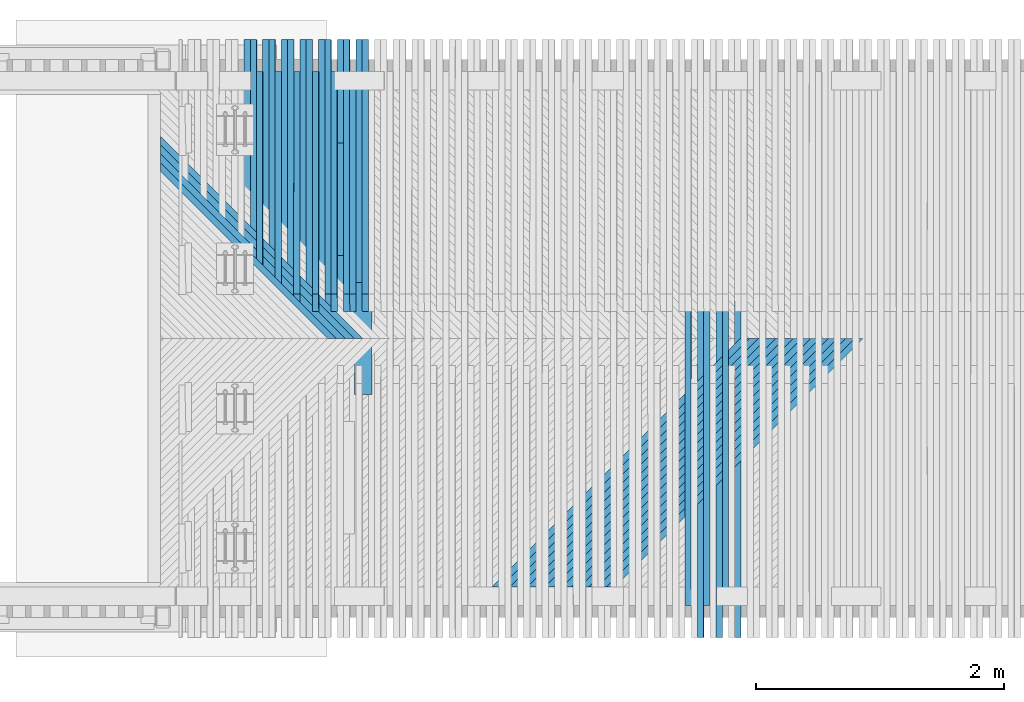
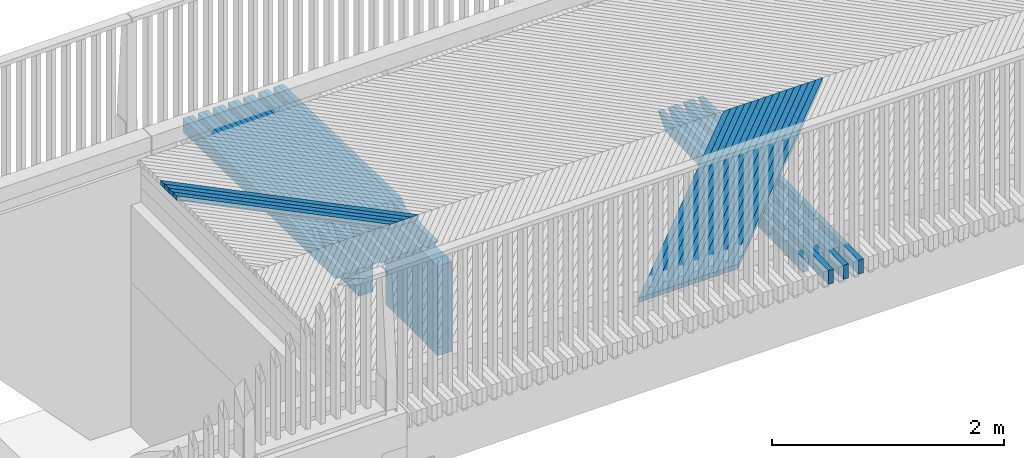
# One storey, part 17 of 47: 46 beams.
"""IFC2X3 building model written with IfcOpenShell, lengths in millimetres."""

from ifc_helpers import new_model, si_unit, frame, origin_with_axes, place, context, subcontext, project, spatial, faceted_brep, material, type_object, element, save


model = new_model("IFC2X3")

# Units and contexts
model_context = context("Model", 3, precision=1e-05, world=origin_with_axes())
body_context = subcontext(model_context, "Body", "Model", "MODEL_VIEW")
ifc_project = project(units=[si_unit("LENGTHUNIT", "METRE", prefix="MILLI"), si_unit("AREAUNIT", "SQUARE_METRE"), si_unit("VOLUMEUNIT", "CUBIC_METRE"), si_unit("MASSUNIT", "GRAM", prefix="KILO"), si_unit("TIMEUNIT", "SECOND"), si_unit("PLANEANGLEUNIT", "RADIAN"), si_unit("SOLIDANGLEUNIT", "STERADIAN"), si_unit("THERMODYNAMICTEMPERATUREUNIT", "DEGREE_CELSIUS"), si_unit("LUMINOUSINTENSITYUNIT", "LUMEN")], contexts=[model_context])

# Site, building, storey
site_placement = place(None, origin_with_axes())
site = spatial("IfcSite", under=ifc_project, at=site_placement, Name="Undefined", CompositionType="ELEMENT")
building_placement = place(site_placement, origin_with_axes())
building = spatial("IfcBuilding", under=site, at=building_placement, Name="Undefined", CompositionType="ELEMENT")
storey_placement = place(building_placement, origin_with_axes())
storey = spatial("IfcBuildingStorey", under=building, at=storey_placement, Name="Undefined", CompositionType="ELEMENT", Elevation=0.0)

# Beams
ifc_material = material(Name="TIMBER/Timber_Undefined")
beam_type_1 = type_object("IfcBeamType", Name="150*50", PredefinedType="NOTDEFINED")
beam_1_placement = place(storey_placement, frame((148.693228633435, 64771.4438078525, 3036.78487958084), z_axis=(-0.0130375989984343, 0.0199960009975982, 0.999715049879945), x_axis=(-0.00026075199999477, -0.99980005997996, 0.0199943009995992)))
element("IfcBeam", 1, at=beam_1_placement, inside=storey, type_object=beam_type_1, material=ifc_material, Name="BEAM", ObjectType="150*50", context=body_context, shape_type="Brep", body=[
    faceted_brep([(6.18456397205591e-09, -24.9999999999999, -75.0000000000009), (-6.1918399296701e-09, -24.9999999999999, 74.9999999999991), (-6.19911588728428e-09, 25.0, 75.0), (6.18456397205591e-09, 24.9999999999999, -75.0), (2186.42645864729, 25.0, -75.0), (2186.42645915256, -25.0000000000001, -75.0), (2047.96936034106, -25.0000000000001, 75.0), (2047.96935975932, 25.0, 75.0)], [[[0, 1, 2, 3]], [[0, 3, 4, 5]], [[1, 0, 5, 6]], [[2, 1, 6, 7]], [[3, 2, 7, 4]], [[6, 5, 4, 7]]]),
])
beam_2_placement = place(storey_placement, frame((98.6580687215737, 64771.443807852, 3036.13147200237), z_axis=(-0.0132037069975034, 0.0199960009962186, 0.999712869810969), x_axis=(-0.000264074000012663, -0.999800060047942, 0.0199942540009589)))
element("IfcBeam", 2, at=beam_2_placement, inside=storey, type_object=beam_type_1, material=ifc_material, Name="BEAM", ObjectType="150*50", context=body_context, shape_type="Brep", body=[
    faceted_brep([(6.18456397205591e-09, -24.9999999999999, -75.0000000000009), (6.18456397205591e-09, 24.9999999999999, -75.0), (2633.00494983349, 25.0000000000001, -75.0000000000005), (2633.00495050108, -24.9999999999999, -75.0000000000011), (-6.1918399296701e-09, -24.9999999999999, 74.9999999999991), (-6.19911588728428e-09, 25.0, 75.0), (2408.42506497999, 24.9999999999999, 75.0), (2768.5924870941, 25.0, 60.5875375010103), (2768.59248707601, -25.0, 60.5875366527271), (2408.4250638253, -25.0, 74.9999999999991)], [[[0, 1, 2, 3]], [[0, 4, 5, 1]], [[2, 1, 5, 6, 7]], [[3, 2, 7, 8]], [[4, 0, 3, 8, 9]], [[5, 4, 9, 6]], [[8, 7, 6, 9]]]),
])
beam_3_placement = place(storey_placement, frame((298.709473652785, 64771.4438078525, 3038.72298996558), z_axis=(-0.0127884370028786, 0.0199960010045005, 0.999718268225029), x_axis=(-0.000255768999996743, -0.999800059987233, 0.0199943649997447)))
element("IfcBeam", 3, at=beam_3_placement, inside=storey, type_object=beam_type_1, material=ifc_material, Name="BEAM", ObjectType="150*50", context=body_context, shape_type="Brep", body=[
    faceted_brep([(6.18456397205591e-09, -24.9999999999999, -75.0000000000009), (-6.1918399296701e-09, -24.9999999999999, 74.9999999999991), (-6.19911588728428e-09, 25.0, 75.0), (6.18456397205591e-09, 24.9999999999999, -75.0), (2186.42645864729, 25.0, -75.0), (2186.42645915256, -25.0000000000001, -75.0), (2047.96936034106, -25.0000000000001, 75.0), (2047.96935975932, 25.0, 75.0)], [[[0, 1, 2, 3]], [[0, 3, 4, 5]], [[1, 0, 5, 6]], [[2, 1, 6, 7]], [[3, 2, 7, 4]], [[6, 5, 4, 7]]]),
])
beam_4_placement = place(storey_placement, frame((198.631744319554, 64513.4953923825, 3042.5936051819), z_axis=(-0.0129545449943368, 0.019996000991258, 0.999716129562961), x_axis=(-0.000259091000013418, -0.999800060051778, 0.0199943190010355)))
element("IfcBeam", 4, at=beam_4_placement, inside=storey, type_object=beam_type_1, material=ifc_material, Name="BEAM", ObjectType="150*50", context=body_context, shape_type="Brep", body=[
    faceted_brep([(6.18456397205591e-09, -24.9999999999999, -75.0000000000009), (-6.1918399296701e-09, -24.9999999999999, 74.9999999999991), (-6.19911588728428e-09, 25.0, 75.0), (6.18456397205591e-09, 24.9999999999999, -75.0), (1928.42646506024, 25.0, -75.0), (1928.4264649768, -24.9999999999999, -75.0), (1789.96936577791, -24.9999999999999, 75.0), (1789.96936586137, 25.0, 75.0000000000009)], [[[0, 1, 2, 3]], [[0, 3, 4, 5]], [[1, 0, 5, 6]], [[2, 1, 6, 7]], [[3, 2, 7, 4]], [[6, 5, 4, 7]]]),
])
beam_5_placement = place(storey_placement, frame((248.674152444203, 64771.443807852, 3038.08205282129), z_axis=(-0.0129545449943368, 0.019996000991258, 0.999716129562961), x_axis=(-0.000259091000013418, -0.999800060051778, 0.0199943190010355)))
element("IfcBeam", 5, at=beam_5_placement, inside=storey, type_object=beam_type_1, material=ifc_material, Name="BEAM", ObjectType="150*50", context=body_context, shape_type="Brep", body=[
    faceted_brep([(6.18456397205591e-09, -24.9999999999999, -75.0000000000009), (6.18456397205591e-09, 24.9999999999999, -75.0), (2633.00494983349, 25.0000000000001, -75.0000000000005), (2633.00495050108, -24.9999999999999, -75.0000000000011), (-6.1918399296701e-09, -24.9999999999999, 74.9999999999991), (-6.19911588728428e-09, 25.0, 75.0), (2408.42506497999, 24.9999999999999, 75.0), (2768.5924870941, 25.0, 60.5875375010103), (2768.59248707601, -25.0, 60.5875366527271), (2408.4250638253, -25.0, 74.9999999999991)], [[[0, 1, 2, 3]], [[0, 4, 5, 1]], [[2, 1, 5, 6, 7]], [[3, 2, 7, 8]], [[4, 0, 3, 8, 9]], [[5, 4, 9, 6]], [[8, 7, 6, 9]]]),
])
beam_6_placement = place(storey_placement, frame((448.726197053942, 64771.4438078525, 3040.62371128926), z_axis=(-0.0125392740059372, 0.0199960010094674, 0.999721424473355), x_axis=(-0.000250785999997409, -0.999800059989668, 0.0199944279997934)))
element("IfcBeam", 6, at=beam_6_placement, inside=storey, type_object=beam_type_1, material=ifc_material, Name="BEAM", ObjectType="150*50", context=body_context, shape_type="Brep", body=[
    faceted_brep([(6.18456397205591e-09, -24.9999999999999, -75.0000000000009), (-6.1918399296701e-09, -24.9999999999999, 74.9999999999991), (-6.19911588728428e-09, 25.0, 75.0), (6.18456397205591e-09, 24.9999999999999, -75.0), (2186.42645864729, 25.0, -75.0), (2186.42645915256, -25.0000000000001, -75.0), (2047.96936034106, -25.0000000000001, 75.0), (2047.96935975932, 25.0, 75.0)], [[[0, 1, 2, 3]], [[0, 3, 4, 5]], [[1, 0, 5, 6]], [[2, 1, 6, 7]], [[3, 2, 7, 4]], [[6, 5, 4, 7]]]),
])
beam_7_placement = place(storey_placement, frame((348.649435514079, 64513.4953923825, 3044.51926905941), z_axis=(-0.0127053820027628, 0.0199960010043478, 0.999719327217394), x_axis=(-0.000254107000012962, -0.999800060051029, 0.0199943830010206)))
element("IfcBeam", 7, at=beam_7_placement, inside=storey, type_object=beam_type_1, material=ifc_material, Name="BEAM", ObjectType="150*50", context=body_context, shape_type="Brep", body=[
    faceted_brep([(6.18456397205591e-09, -24.9999999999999, -75.0000000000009), (-6.1918399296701e-09, -24.9999999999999, 74.9999999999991), (-6.19911588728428e-09, 25.0, 75.0), (6.18456397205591e-09, 24.9999999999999, -75.0), (1928.42646506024, 25.0, -75.0), (1928.4264649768, -24.9999999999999, -75.0), (1789.96936577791, -24.9999999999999, 75.0), (1789.96936586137, 25.0, 75.0000000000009)], [[[0, 1, 2, 3]], [[0, 3, 4, 5]], [[1, 0, 5, 6]], [[2, 1, 6, 7]], [[3, 2, 7, 4]], [[6, 5, 4, 7]]]),
])
beam_8_placement = place(storey_placement, frame((398.690717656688, 64771.443807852, 3039.99524461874), z_axis=(-0.0127053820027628, 0.0199960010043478, 0.999719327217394), x_axis=(-0.000254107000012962, -0.999800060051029, 0.0199943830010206)))
element("IfcBeam", 8, at=beam_8_placement, inside=storey, type_object=beam_type_1, material=ifc_material, Name="BEAM", ObjectType="150*50", context=body_context, shape_type="Brep", body=[
    faceted_brep([(6.18456397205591e-09, -24.9999999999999, -75.0000000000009), (6.18456397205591e-09, 24.9999999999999, -75.0), (2633.00494983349, 25.0000000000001, -75.0000000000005), (2633.00495050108, -24.9999999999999, -75.0000000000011), (-6.1918399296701e-09, -24.9999999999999, 74.9999999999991), (-6.19911588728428e-09, 25.0, 75.0), (2408.42506497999, 24.9999999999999, 75.0), (2768.5924870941, 25.0, 60.5875375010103), (2768.59248707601, -25.0, 60.5875366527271), (2408.4250638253, -25.0, 74.9999999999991)], [[[0, 1, 2, 3]], [[0, 4, 5, 1]], [[2, 1, 5, 6, 7]], [[3, 2, 7, 8]], [[4, 0, 3, 8, 9]], [[5, 4, 9, 6]], [[8, 7, 6, 9]]]),
])
beam_9_placement = place(storey_placement, frame((598.743389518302, 64771.4438078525, 3042.48704343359), z_axis=(-0.0122901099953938, 0.0199960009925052, 0.999724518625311), x_axis=(-0.000245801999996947, -0.999800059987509, 0.0199944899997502)))
element("IfcBeam", 9, at=beam_9_placement, inside=storey, type_object=beam_type_1, material=ifc_material, Name="BEAM", ObjectType="150*50", context=body_context, shape_type="Brep", body=[
    faceted_brep([(6.18456397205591e-09, -24.9999999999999, -75.0000000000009), (-6.1918399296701e-09, -24.9999999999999, 74.9999999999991), (-6.19911588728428e-09, 25.0, 75.0), (6.18456397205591e-09, 24.9999999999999, -75.0), (2186.42645864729, 25.0, -75.0), (2186.42645915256, -25.0000000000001, -75.0), (2047.96936034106, -25.0000000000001, 75.0), (2047.96935975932, 25.0, 75.0)], [[[0, 1, 2, 3]], [[0, 3, 4, 5]], [[1, 0, 5, 6]], [[2, 1, 6, 7]], [[3, 2, 7, 4]], [[6, 5, 4, 7]]]),
])
beam_10_placement = place(storey_placement, frame((498.667601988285, 64513.4953923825, 3046.40754351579), z_axis=(-0.0124562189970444, 0.0199960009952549, 0.999722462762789), x_axis=(-0.00024912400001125, -0.999800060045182, 0.0199944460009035)))
element("IfcBeam", 10, at=beam_10_placement, inside=storey, type_object=beam_type_1, material=ifc_material, Name="BEAM", ObjectType="150*50", context=body_context, shape_type="Brep", body=[
    faceted_brep([(6.18456397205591e-09, -24.9999999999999, -75.0000000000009), (-6.1918399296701e-09, -24.9999999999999, 74.9999999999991), (-6.19911588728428e-09, 25.0, 75.0), (6.18456397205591e-09, 24.9999999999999, -75.0), (1928.42646506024, 25.0, -75.0), (1928.4264649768, -24.9999999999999, -75.0), (1789.96936577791, -24.9999999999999, 75.0), (1789.96936586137, 25.0, 75.0000000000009)], [[[0, 1, 2, 3]], [[0, 3, 4, 5]], [[1, 0, 5, 6]], [[2, 1, 6, 7]], [[3, 2, 7, 4]], [[6, 5, 4, 7]]]),
])
beam_11_placement = place(storey_placement, frame((548.707755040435, 64771.443807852, 3041.87104727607), z_axis=(-0.0124562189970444, 0.0199960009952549, 0.999722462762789), x_axis=(-0.00024912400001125, -0.999800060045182, 0.0199944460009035)))
element("IfcBeam", 11, at=beam_11_placement, inside=storey, type_object=beam_type_1, material=ifc_material, Name="BEAM", ObjectType="150*50", context=body_context, shape_type="Brep", body=[
    faceted_brep([(6.18456397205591e-09, -24.9999999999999, -75.0000000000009), (6.18456397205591e-09, 24.9999999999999, -75.0), (2633.00494983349, 25.0000000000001, -75.0000000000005), (2633.00495050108, -24.9999999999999, -75.0000000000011), (-6.1918399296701e-09, -24.9999999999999, 74.9999999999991), (-6.19911588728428e-09, 25.0, 75.0), (2408.42506497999, 24.9999999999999, 75.0), (2768.5924870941, 25.0, 60.5875375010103), (2768.59248707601, -25.0, 60.5875366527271), (2408.4250638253, -25.0, 74.9999999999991)], [[[0, 1, 2, 3]], [[0, 4, 5, 1]], [[2, 1, 5, 6, 7]], [[3, 2, 7, 8]], [[4, 0, 3, 8, 9]], [[5, 4, 9, 6]], [[8, 7, 6, 9]]]),
])
beam_12_placement = place(storey_placement, frame((748.761041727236, 64771.4438078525, 3044.31298628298), z_axis=(-0.0120409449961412, 0.0199960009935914, 0.999727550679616), x_axis=(-0.000240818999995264, -0.999800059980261, 0.0199945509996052)))
element("IfcBeam", 12, at=beam_12_placement, inside=storey, type_object=beam_type_1, material=ifc_material, Name="BEAM", ObjectType="150*50", context=body_context, shape_type="Brep", body=[
    faceted_brep([(6.18456397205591e-09, -24.9999999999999, -75.0000000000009), (-6.1918399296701e-09, -24.9999999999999, 74.9999999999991), (-6.19911588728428e-09, 25.0, 75.0), (6.18456397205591e-09, 24.9999999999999, -75.0), (2186.42645864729, 25.0, -75.0), (2186.42645915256, -25.0000000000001, -75.0), (2047.96936034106, -25.0000000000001, 75.0), (2047.96935975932, 25.0, 75.0)], [[[0, 1, 2, 3]], [[0, 3, 4, 5]], [[1, 0, 5, 6]], [[2, 1, 6, 7]], [[3, 2, 7, 4]], [[6, 5, 4, 7]]]),
])
beam_13_placement = place(storey_placement, frame((648.686234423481, 64513.4953923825, 3048.25842843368), z_axis=(-0.0122070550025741, 0.0199960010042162, 0.999725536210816), x_axis=(-0.000244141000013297, -0.999800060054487, 0.0199945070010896)))
element("IfcBeam", 13, at=beam_13_placement, inside=storey, type_object=beam_type_1, material=ifc_material, Name="BEAM", ObjectType="150*50", context=body_context, shape_type="Brep", body=[
    faceted_brep([(6.18456397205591e-09, -24.9999999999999, -75.0000000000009), (-6.1918399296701e-09, -24.9999999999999, 74.9999999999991), (-6.19911588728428e-09, 25.0, 75.0), (6.18456397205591e-09, 24.9999999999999, -75.0), (1928.42646506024, 25.0, -75.0), (1928.4264649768, -24.9999999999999, -75.0), (1789.96936577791, -24.9999999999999, 75.0), (1789.96936586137, 25.0, 75.0000000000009)], [[[0, 1, 2, 3]], [[0, 3, 4, 5]], [[1, 0, 5, 6]], [[2, 1, 6, 7]], [[3, 2, 7, 4]], [[6, 5, 4, 7]]]),
])
beam_14_placement = place(storey_placement, frame((698.725255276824, 64771.443807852, 3043.70946067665), z_axis=(-0.0122070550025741, 0.0199960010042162, 0.999725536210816), x_axis=(-0.000244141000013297, -0.999800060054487, 0.0199945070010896)))
element("IfcBeam", 14, at=beam_14_placement, inside=storey, type_object=beam_type_1, material=ifc_material, Name="BEAM", ObjectType="150*50", context=body_context, shape_type="Brep", body=[
    faceted_brep([(6.18456397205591e-09, -24.9999999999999, -75.0000000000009), (6.18456397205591e-09, 24.9999999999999, -75.0), (2633.00494983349, 25.0000000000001, -75.0000000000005), (2633.00495050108, -24.9999999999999, -75.0000000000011), (-6.1918399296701e-09, -24.9999999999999, 74.9999999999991), (-6.19911588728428e-09, 25.0, 75.0), (2408.42506497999, 24.9999999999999, 75.0), (2768.5924870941, 25.0, 60.5875375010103), (2768.59248707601, -25.0, 60.5875366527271), (2408.4250638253, -25.0, 74.9999999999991)], [[[0, 1, 2, 3]], [[0, 4, 5, 1]], [[2, 1, 5, 6, 7]], [[3, 2, 7, 8]], [[4, 0, 3, 8, 9]], [[5, 4, 9, 6]], [[8, 7, 6, 9]]]),
])
beam_15_placement = place(storey_placement, frame((898.779144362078, 64771.4438078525, 3046.10153972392), z_axis=(-0.0117917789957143, 0.0199960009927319, 0.999730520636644), x_axis=(-0.000235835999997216, -0.999800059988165, 0.0199946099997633)))
element("IfcBeam", 15, at=beam_15_placement, inside=storey, type_object=beam_type_1, material=ifc_material, Name="BEAM", ObjectType="150*50", context=body_context, shape_type="Brep", body=[
    faceted_brep([(6.18456397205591e-09, -24.9999999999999, -75.0000000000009), (-6.1918399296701e-09, -24.9999999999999, 74.9999999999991), (-6.19911588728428e-09, 25.0, 75.0), (6.18456397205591e-09, 24.9999999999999, -75.0), (2186.42645864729, 25.0, -75.0), (2186.42645915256, -25.0000000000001, -75.0), (2047.96936034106, -25.0000000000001, 75.0), (2047.96935975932, 25.0, 75.0)], [[[0, 1, 2, 3]], [[0, 3, 4, 5]], [[1, 0, 5, 6]], [[2, 1, 6, 7]], [[3, 2, 7, 4]], [[6, 5, 4, 7]]]),
])
beam_16_placement = place(storey_placement, frame((798.705323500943, 64513.4953923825, 3050.07192369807), z_axis=(-0.0119578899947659, 0.019996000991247, 0.999728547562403), x_axis=(-0.00023915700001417, -0.999800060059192, 0.0199945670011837)))
element("IfcBeam", 16, at=beam_16_placement, inside=storey, type_object=beam_type_1, material=ifc_material, Name="BEAM", ObjectType="150*50", context=body_context, shape_type="Brep", body=[
    faceted_brep([(6.18456397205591e-09, -24.9999999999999, -75.0000000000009), (-6.1918399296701e-09, -24.9999999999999, 74.9999999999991), (-6.19911588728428e-09, 25.0, 75.0), (6.18456397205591e-09, 24.9999999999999, -75.0), (1928.42646506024, 25.0, -75.0), (1928.4264649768, -24.9999999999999, -75.0), (1789.96936577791, -24.9999999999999, 75.0), (1789.96936586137, 25.0, 75.0000000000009)], [[[0, 1, 2, 3]], [[0, 3, 4, 5]], [[1, 0, 5, 6]], [[2, 1, 6, 7]], [[3, 2, 7, 4]], [[6, 5, 4, 7]]]),
])
beam_17_placement = place(storey_placement, frame((848.743209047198, 64771.443807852, 3045.51048470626), z_axis=(-0.0119578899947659, 0.019996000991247, 0.999728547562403), x_axis=(-0.00023915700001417, -0.999800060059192, 0.0199945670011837)))
element("IfcBeam", 17, at=beam_17_placement, inside=storey, type_object=beam_type_1, material=ifc_material, Name="BEAM", ObjectType="150*50", context=body_context, shape_type="Brep", body=[
    faceted_brep([(6.18456397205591e-09, -24.9999999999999, -75.0000000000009), (6.18456397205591e-09, 24.9999999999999, -75.0), (2633.00494983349, 25.0000000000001, -75.0000000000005), (2633.00495050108, -24.9999999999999, -75.0000000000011), (-6.1918399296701e-09, -24.9999999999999, 74.9999999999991), (-6.19911588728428e-09, 25.0, 75.0), (2408.42506497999, 24.9999999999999, 75.0), (2768.5924870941, 25.0, 60.5875375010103), (2768.59248707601, -25.0, 60.5875366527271), (2408.4250638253, -25.0, 74.9999999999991)], [[[0, 1, 2, 3]], [[0, 4, 5, 1]], [[2, 1, 5, 6, 7]], [[3, 2, 7, 8]], [[4, 0, 3, 8, 9]], [[5, 4, 9, 6]], [[8, 7, 6, 9]]]),
])
beam_18_placement = place(storey_placement, frame((1048.79768810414, 64771.4438078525, 3047.85270364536), z_axis=(-0.0115426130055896, 0.0199960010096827, 0.999733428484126), x_axis=(-0.000230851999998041, -0.999800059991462, 0.0199946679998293)))
element("IfcBeam", 18, at=beam_18_placement, inside=storey, type_object=beam_type_1, material=ifc_material, Name="BEAM", ObjectType="150*50", context=body_context, shape_type="Brep", body=[
    faceted_brep([(6.18456397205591e-09, -24.9999999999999, -75.0000000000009), (-6.1918399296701e-09, -24.9999999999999, 74.9999999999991), (-6.19911588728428e-09, 25.0, 75.0), (6.18456397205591e-09, 24.9999999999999, -75.0), (2186.42645864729, 25.0, -75.0), (2186.42645915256, -25.0000000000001, -75.0), (2047.96936034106, -25.0000000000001, 75.0), (2047.96935975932, 25.0, 75.0)], [[[0, 1, 2, 3]], [[0, 3, 4, 5]], [[1, 0, 5, 6]], [[2, 1, 6, 7]], [[3, 2, 7, 4]], [[6, 5, 4, 7]]]),
])
beam_19_placement = place(storey_placement, frame((948.724859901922, 64513.4953923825, 3051.84802919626), z_axis=(-0.0117087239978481, 0.0199960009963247, 0.999731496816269), x_axis=(-0.000234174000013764, -0.999800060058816, 0.0199946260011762)))
element("IfcBeam", 19, at=beam_19_placement, inside=storey, type_object=beam_type_1, material=ifc_material, Name="BEAM", ObjectType="150*50", context=body_context, shape_type="Brep", body=[
    faceted_brep([(6.18456397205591e-09, -24.9999999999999, -75.0000000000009), (-6.1918399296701e-09, -24.9999999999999, 74.9999999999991), (-6.19911588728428e-09, 25.0, 75.0), (6.18456397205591e-09, 24.9999999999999, -75.0), (1928.42646506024, 25.0, -75.0), (1928.4264649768, -24.9999999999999, -75.0), (1789.96936577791, -24.9999999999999, 75.0), (1789.96936586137, 25.0, 75.0000000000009)], [[[0, 1, 2, 3]], [[0, 3, 4, 5]], [[1, 0, 5, 6]], [[2, 1, 6, 7]], [[3, 2, 7, 4]], [[6, 5, 4, 7]]]),
])
beam_20_placement = place(storey_placement, frame((998.761607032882, 64771.443807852, 3047.27411925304), z_axis=(-0.0117087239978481, 0.0199960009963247, 0.999731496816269), x_axis=(-0.000234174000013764, -0.999800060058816, 0.0199946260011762)))
element("IfcBeam", 20, at=beam_20_placement, inside=storey, type_object=beam_type_1, material=ifc_material, Name="BEAM", ObjectType="150*50", context=body_context, shape_type="Brep", body=[
    faceted_brep([(6.18456397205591e-09, -24.9999999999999, -75.0000000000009), (6.18456397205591e-09, 24.9999999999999, -75.0), (2633.00494983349, 25.0000000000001, -75.0000000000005), (2633.00495050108, -24.9999999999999, -75.0000000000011), (-6.1918399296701e-09, -24.9999999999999, 74.9999999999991), (-6.19911588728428e-09, 25.0, 75.0), (2408.42506497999, 24.9999999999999, 75.0), (2768.5924870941, 25.0, 60.5875375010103), (2768.59248707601, -25.0, 60.5875366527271), (2408.4250638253, -25.0, 74.9999999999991)], [[[0, 1, 2, 3]], [[0, 4, 5, 1]], [[2, 1, 5, 6, 7]], [[3, 2, 7, 8]], [[4, 0, 3, 8, 9]], [[5, 4, 9, 6]], [[8, 7, 6, 9]]]),
])
beam_21_placement = place(storey_placement, frame((3749.19628133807, 59958.5561921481, 3072.97993363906), z_axis=(-0.00705751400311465, -0.019996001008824, 0.999775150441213), x_axis=(-0.000141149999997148, 0.999800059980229, 0.0199955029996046)))
element("IfcBeam", 21, at=beam_21_placement, inside=storey, type_object=beam_type_1, material=ifc_material, Name="BEAM", ObjectType="150*50", context=body_context, shape_type="Brep", body=[
    faceted_brep([(6.18456397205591e-09, -24.9999999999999, -75.0000000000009), (-6.1918399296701e-09, -24.9999999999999, 74.9999999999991), (-6.19911588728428e-09, 25.0, 75.0), (6.18456397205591e-09, 24.9999999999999, -75.0), (2633.00494983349, 25.0000000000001, -75.0000000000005), (2633.00495050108, -24.9999999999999, -75.0000000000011), (2768.59248707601, -25.0, 60.5875366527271), (2408.42499905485, -25.0, 74.9999999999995), (2408.42501428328, 25.0000000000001, 74.9999999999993), (2768.5924870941, 25.0, 60.5875375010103)], [[[0, 1, 2, 3]], [[0, 3, 4, 5]], [[1, 0, 5, 6, 7]], [[2, 1, 7, 8]], [[4, 3, 2, 8, 9]], [[5, 4, 9, 6]], [[8, 7, 6, 9]]]),
])
beam_22_placement = place(storey_placement, frame((3649.14238391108, 60216.5046076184, 3077.42416363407), z_axis=(-0.0072236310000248, -0.0199960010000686, 0.999773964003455), x_axis=(-0.00014447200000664, 0.999800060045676, 0.0199954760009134)))
element("IfcBeam", 22, at=beam_22_placement, inside=storey, type_object=beam_type_1, material=ifc_material, Name="BEAM", ObjectType="150*50", context=body_context, shape_type="Brep", body=[
    faceted_brep([(6.18456397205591e-09, -24.9999999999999, -75.0000000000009), (-6.1918399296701e-09, -24.9999999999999, 74.9999999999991), (-6.19911588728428e-09, 25.0, 75.0), (6.18456397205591e-09, 24.9999999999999, -75.0), (2375.00494220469, 24.9999999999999, -75.0000000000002), (2375.00494218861, -25.0, -75.0), (2510.59248711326, -25.0, 60.5875455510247), (2150.42518973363, -25.0, 75.0000000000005), (2150.42518840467, 25.0, 74.9999999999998), (2510.59248707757, 25.0, 60.5875454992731)], [[[0, 1, 2, 3]], [[0, 3, 4, 5]], [[1, 0, 5, 6, 7]], [[2, 1, 7, 8]], [[4, 3, 2, 8, 9]], [[5, 4, 9, 6]], [[8, 7, 6, 9]]]),
])
beam_23_placement = place(storey_placement, frame((3899.22143553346, 59958.5561921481, 3074.0206786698), z_axis=(-0.00680833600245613, -0.019996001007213, 0.999776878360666), x_axis=(-0.000136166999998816, 0.999800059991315, 0.0199955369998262)))
element("IfcBeam", 23, at=beam_23_placement, inside=storey, type_object=beam_type_1, material=ifc_material, Name="BEAM", ObjectType="150*50", context=body_context, shape_type="Brep", body=[
    faceted_brep([(6.18456397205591e-09, -24.9999999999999, -75.0000000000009), (-6.1918399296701e-09, -24.9999999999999, 74.9999999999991), (-6.19911588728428e-09, 25.0, 75.0), (6.18456397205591e-09, 24.9999999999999, -75.0), (2633.00494983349, 25.0000000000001, -75.0000000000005), (2633.00495050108, -24.9999999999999, -75.0000000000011), (2768.59248707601, -25.0, 60.5875366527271), (2408.42499905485, -25.0, 74.9999999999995), (2408.42501428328, 25.0000000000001, 74.9999999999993), (2768.5924870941, 25.0, 60.5875375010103)], [[[0, 1, 2, 3]], [[0, 3, 4, 5]], [[1, 0, 5, 6, 7]], [[2, 1, 7, 8]], [[4, 3, 2, 8, 9]], [[5, 4, 9, 6]], [[8, 7, 6, 9]]]),
])
beam_24_placement = place(storey_placement, frame((3799.16864886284, 60216.5046076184, 3078.48984526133), z_axis=(-0.00697445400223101, -0.0199960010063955, 0.99977573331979), x_axis=(-0.000139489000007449, 0.999800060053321, 0.0199955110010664)))
element("IfcBeam", 24, at=beam_24_placement, inside=storey, type_object=beam_type_1, material=ifc_material, Name="BEAM", ObjectType="150*50", context=body_context, shape_type="Brep", body=[
    faceted_brep([(6.18456397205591e-09, -24.9999999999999, -75.0000000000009), (-6.1918399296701e-09, -24.9999999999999, 74.9999999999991), (-6.19911588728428e-09, 25.0, 75.0), (6.18456397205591e-09, 24.9999999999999, -75.0), (2375.00494220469, 24.9999999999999, -75.0000000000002), (2375.00494218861, -25.0, -75.0), (2510.59248711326, -25.0, 60.5875455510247), (2150.42518973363, -25.0, 75.0000000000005), (2150.42518840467, 25.0, 74.9999999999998), (2510.59248707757, 25.0, 60.5875454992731)], [[[0, 1, 2, 3]], [[0, 3, 4, 5]], [[1, 0, 5, 6, 7]], [[2, 1, 7, 8]], [[4, 3, 2, 8, 9]], [[5, 4, 9, 6]], [[8, 7, 6, 9]]]),
])
beam_25_placement = place(storey_placement, frame((4049.24684445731, 59958.5561921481, 3075.02403244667), z_axis=(-0.0065591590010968, -0.0199960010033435, 0.999778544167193), x_axis=(-0.000131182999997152, 0.999800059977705, 0.0199955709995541)))
element("IfcBeam", 25, at=beam_25_placement, inside=storey, type_object=beam_type_1, material=ifc_material, Name="BEAM", ObjectType="150*50", context=body_context, shape_type="Brep", body=[
    faceted_brep([(6.18456397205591e-09, -24.9999999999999, -75.0000000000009), (-6.1918399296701e-09, -24.9999999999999, 74.9999999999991), (-6.19911588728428e-09, 25.0, 75.0), (6.18456397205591e-09, 24.9999999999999, -75.0), (2633.00494983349, 25.0000000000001, -75.0000000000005), (2633.00495050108, -24.9999999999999, -75.0000000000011), (2768.59248707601, -25.0, 60.5875366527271), (2408.42499905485, -25.0, 74.9999999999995), (2408.42501428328, 25.0000000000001, 74.9999999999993), (2768.5924870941, 25.0, 60.5875375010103)], [[[0, 1, 2, 3]], [[0, 3, 4, 5]], [[1, 0, 5, 6, 7]], [[2, 1, 7, 8]], [[4, 3, 2, 8, 9]], [[5, 4, 9, 6]], [[8, 7, 6, 9]]]),
])
beam_26_placement = place(storey_placement, frame((3949.19517475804, 60216.5046076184, 3079.51813535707), z_axis=(-0.00672527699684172, -0.0199960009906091, 0.999777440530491), x_axis=(-0.000134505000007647, 0.999800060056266, 0.0199955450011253)))
element("IfcBeam", 26, at=beam_26_placement, inside=storey, type_object=beam_type_1, material=ifc_material, Name="BEAM", ObjectType="150*50", context=body_context, shape_type="Brep", body=[
    faceted_brep([(6.18456397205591e-09, -24.9999999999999, -75.0000000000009), (-6.1918399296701e-09, -24.9999999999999, 74.9999999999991), (-6.19911588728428e-09, 25.0, 75.0), (6.18456397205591e-09, 24.9999999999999, -75.0), (2375.00494220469, 24.9999999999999, -75.0000000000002), (2375.00494218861, -25.0, -75.0), (2510.59248711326, -25.0, 60.5875455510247), (2150.42518973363, -25.0, 75.0000000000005), (2150.42518840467, 25.0, 74.9999999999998), (2510.59248707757, 25.0, 60.5875454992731)], [[[0, 1, 2, 3]], [[0, 3, 4, 5]], [[1, 0, 5, 6, 7]], [[2, 1, 7, 8]], [[4, 3, 2, 8, 9]], [[5, 4, 9, 6]], [[8, 7, 6, 9]]]),
])
beam_type_2 = type_object("IfcBeamType", Name="945*140", PredefinedType="NOTDEFINED")
for number, where, z_axis, x_axis in (
    (27, (1031.0, 62817.5, 2502.1379002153), (0.0, 0.0, 1.0), (0.0, -1.0, 0.0)),
    (28, (891.0, 63937.5, 2500.3779002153), (0.0, 0.0, 1.0), (0.0, -1.0, 0.0)),
):
    element("IfcBeam", number, at=place(storey_placement, frame(where, z_axis=z_axis, x_axis=x_axis)), inside=storey, type_object=beam_type_2, material=ifc_material, Name="PALKKI", ObjectType="945*140", context=body_context, shape_type="Brep", body=[
        faceted_brep([(0.0, 70.0, -472.5), (0.0, 70.0, 472.5), (905.0, 70.0, 472.5), (905.0, 70.0, -472.5), (0.0, -70.0, 472.5), (905.0, -70.0, 472.5), (0.0, -70.0, -472.5), (905.0, -70.0, -472.5)], [[[0, 1, 2, 3]], [[1, 4, 5, 2]], [[4, 6, 7, 5]], [[6, 0, 3, 7]], [[5, 7, 3, 2]], [[6, 4, 1, 0]]]),
    ])
beam_type_3 = type_object("IfcBeamType", Name="50*50", PredefinedType="NOTDEFINED")
beam_27_placement = place(storey_placement, frame((780.659263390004, 62365.4998996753, 3192.8403036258), z_axis=(0.707217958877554, 0.706981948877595, -0.00439119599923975), x_axis=(-0.706861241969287, 0.706948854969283, -0.0238851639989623)))
element("IfcBeam", 29, at=beam_27_placement, inside=storey, type_object=beam_type_3, material=ifc_material, Name="BEAM", ObjectType="50*50", context=body_context, shape_type="Brep", body=[
    faceted_brep([(25.0011701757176, -25.0, -24.9999999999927), (-25.0011704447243, -25.0, 24.9999999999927), (-26.4154158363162, 25.0, 25.0), (23.5869248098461, 25.0, -25.0), (1977.75048147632, 25.0, 24.9999999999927), (1927.72524902, 25.0, -25.0000000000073), (1928.70012414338, -25.0, -25.0000000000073), (1978.7253565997, -25.0, 24.9999999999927)], [[[0, 1, 2, 3]], [[3, 2, 4, 5]], [[0, 3, 5, 6]], [[1, 0, 6, 7]], [[2, 1, 7, 4]], [[6, 5, 4, 7]]]),
])
beam_28_placement = place(storey_placement, frame((851.378462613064, 62365.4998996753, 3193.68413878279), z_axis=(0.707217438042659, 0.706981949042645, -0.00447426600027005), x_axis=(-0.706864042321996, 0.706948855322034, -0.0238021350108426)))
element("IfcBeam", 30, at=beam_28_placement, inside=storey, type_object=beam_type_3, material=ifc_material, Name="BEAM", ObjectType="50*50", context=body_context, shape_type="Brep", body=[
    faceted_brep([(25.0011701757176, -25.0, -24.9999999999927), (-25.0011704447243, -25.0, 24.9999999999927), (-26.4154158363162, 25.0, 25.0), (23.5869248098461, 25.0, -25.0), (2077.79317600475, 25.0, 25.0), (2027.76817857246, 25.0, -25.0000000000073), (2028.73474369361, -25.0000000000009, -25.0000000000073), (2078.7597411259, -25.0000000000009, 24.9999999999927)], [[[0, 1, 2, 3]], [[3, 2, 4, 5]], [[0, 3, 5, 6]], [[1, 0, 6, 7]], [[2, 1, 7, 4]], [[6, 5, 4, 7]]]),
])
beam_29_placement = place(storey_placement, frame((922.097760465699, 62365.4998996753, 3194.51966721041), z_axis=(0.707216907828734, 0.706981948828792, -0.00455733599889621), x_axis=(-0.706866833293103, 0.706948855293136, -0.0237191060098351)))
element("IfcBeam", 31, at=beam_29_placement, inside=storey, type_object=beam_type_3, material=ifc_material, Name="BEAM", ObjectType="50*50", context=body_context, shape_type="Brep", body=[
    faceted_brep([(25.0011701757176, -25.0, -24.9999999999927), (-25.0011704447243, -25.0, 24.9999999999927), (-26.4154158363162, 25.0, 25.0), (23.5869248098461, 25.0, -25.0), (2177.83524597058, 25.0, 25.0), (2127.81048355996, 25.0, -25.0), (2128.76873875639, -25.0, -24.9999999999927), (2178.79350116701, -25.0, 25.0)], [[[0, 1, 2, 3]], [[3, 2, 4, 5]], [[0, 3, 5, 6]], [[1, 0, 6, 7]], [[2, 1, 7, 4]], [[6, 5, 4, 7]]]),
])
beam_30_placement = place(storey_placement, frame((992.817155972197, 62365.4998996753, 3195.34688889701), z_axis=(0.707216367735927, 0.706981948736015, -0.00464040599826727), x_axis=(-0.706869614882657, 0.706948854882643, -0.0236360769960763)))
element("IfcBeam", 32, at=beam_30_placement, inside=storey, type_object=beam_type_3, material=ifc_material, Name="BEAM", ObjectType="50*50", context=body_context, shape_type="Brep", body=[
    faceted_brep([(25.0011701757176, -25.0, -24.9999999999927), (-25.0011704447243, -25.0, 24.9999999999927), (-26.4154158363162, 25.0, 25.0), (23.5869248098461, 25.0, -25.0), (2277.87669396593, 25.0, 25.0000000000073), (2227.85216660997, 25.0, -24.9999999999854), (2228.80211195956, -24.9999999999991, -24.9999999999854), (2278.82663931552, -25.0, 25.0000000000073)], [[[0, 1, 2, 3]], [[3, 2, 4, 5]], [[0, 3, 5, 6]], [[1, 0, 6, 7]], [[2, 1, 7, 4]], [[6, 5, 4, 7]]]),
])
for number, where, z_axis, x_axis, name in (
    (33, (5023.95240158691, 62364.5001003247, 3228.76716320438), (0.707169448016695, -0.706981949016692, -0.00937526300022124), (-0.70701202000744, -0.706948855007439, -0.018902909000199), "BEAM"),
    (34, (4953.22905270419, 62364.5001003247, 3228.41344108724), (0.707170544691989, -0.706981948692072, -0.00929219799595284), (-0.70700979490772, -0.706948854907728, -0.018985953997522), "BEAM"),
    (35, (4882.50574585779, 62364.5001003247, 3228.05141176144), (0.707171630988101, -0.706981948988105, -0.00920913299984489), (-0.707007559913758, -0.706948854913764, -0.0190689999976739), "BEAM"),
    (36, (4811.78248202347, 62364.5001003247, 3227.68107523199), (0.707172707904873, -0.7069819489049, -0.00912606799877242), (-0.707005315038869, -0.706948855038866, -0.0191520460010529), "BEAM"),
    (37, (4741.05926217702, 62364.5001003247, 3227.30243150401), (0.707173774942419, -0.706981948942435, -0.00904300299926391), (-0.707003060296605, -0.706948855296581, -0.0192350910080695), "BEAM"),
    (38, (4670.33608729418, 62364.5001003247, 3226.91548058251), (0.707174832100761, -0.706981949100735, -0.00895993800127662), (-0.707000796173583, -0.70694885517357, -0.019318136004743), "BEAM"),
    (39, (4599.61295835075, 62364.5001003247, 3226.52022247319), (0.707175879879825, -0.706981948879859, -0.00887687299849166), (-0.706998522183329, -0.706948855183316, -0.0194011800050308), "BEAM"),
    (40, (4528.88987632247, 62364.5001003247, 3226.11665718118), (0.707176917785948, -0.706981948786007, -0.00879380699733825), (-0.706996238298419, -0.706948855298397, -0.0194842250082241), "BEAM"),
    (41, (4458.16684218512, 62364.5001003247, 3225.70478471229), (0.707177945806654, -0.706981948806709, -0.00871074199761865), (-0.706993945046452, -0.706948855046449, -0.0195672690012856), "BEAM"),
    (42, (4387.44385691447, 62364.5001003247, 3225.284605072), (0.707178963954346, -0.70698194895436, -0.00862767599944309), (-0.706991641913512, -0.706948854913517, -0.0196503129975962), "BEAM"),
    (43, (4316.72092148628, 62364.5001003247, 3224.85611826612), (0.707179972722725, -0.706981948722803, -0.00854460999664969), (-0.706989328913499, -0.706948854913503, -0.0197333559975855), "BEAM"),
    (44, (4245.99803687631, 62364.5001003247, 3224.41932430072), (0.707180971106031, -0.706981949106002, -0.0084615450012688), (-0.706987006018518, -0.706948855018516, -0.019816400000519), "BEAM"),
    (45, (4175.27520406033, 62364.5001003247, 3223.97422318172), (0.707181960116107, -0.706981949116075, -0.00837847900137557), (-0.706984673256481, -0.706948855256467, -0.0198994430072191), "BEAM"),
    (46, (4104.5524240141, 62364.5001003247, 3223.52081491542), (0.707182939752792, -0.706981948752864, -0.00829541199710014), (-0.706982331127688, -0.706948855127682, -0.019982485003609), "BEAM"),
):
    element("IfcBeam", number, at=place(storey_placement, frame(where, z_axis=z_axis, x_axis=x_axis)), inside=storey, type_object=beam_type_3, material=ifc_material, Name=name, ObjectType="50*50", context=body_context, shape_type="Brep", body=[
        faceted_brep([(24.8942457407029, 24.9999999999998, -24.9999999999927), (-25.0086637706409, 24.9999999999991, 25.0), (2804.3406783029, 24.9999999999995, 25.0000000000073), (2854.34301907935, 24.9999999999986, -24.9999999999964), (-26.4222658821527, -25.0000000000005, 25.0000000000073), (2802.92643296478, -25.0000000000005, 25.0000000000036), (23.4806436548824, -25.0000000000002, -25.0), (2852.92877373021, -25.0000000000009, -24.9999999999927)], [[[0, 1, 2, 3]], [[1, 4, 5, 2]], [[4, 6, 7, 5]], [[6, 0, 3, 7]], [[5, 7, 3, 2]], [[6, 4, 1, 0]]]),
    ])

save(model, "model.ifc")
